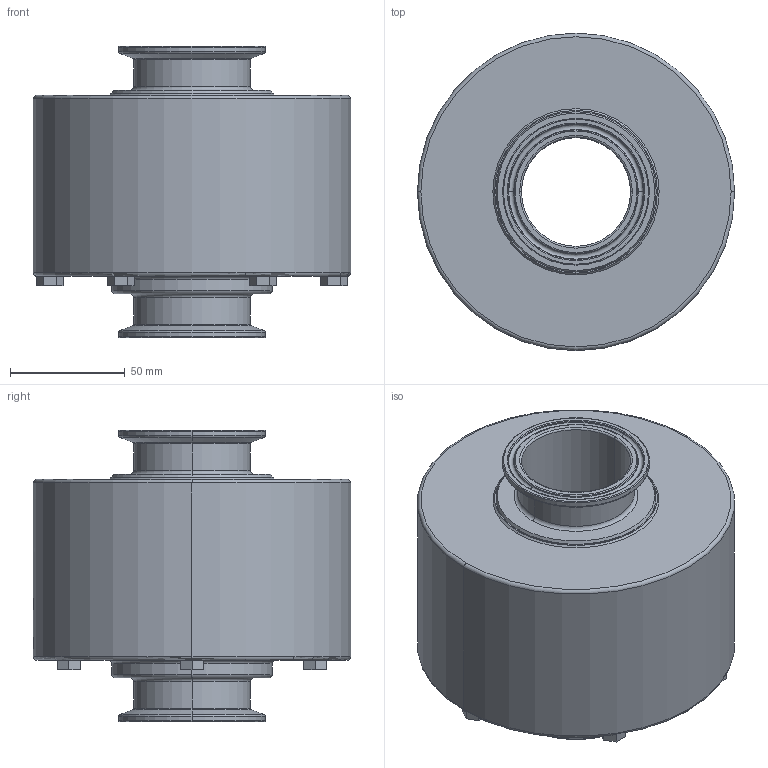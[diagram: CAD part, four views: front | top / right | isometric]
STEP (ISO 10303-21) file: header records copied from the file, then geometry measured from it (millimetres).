
FILE_DESCRIPTION (( 'STEP AP214' ), '1' );
FILE_NAME ('SCS(M)-609010.STEP', '2013-01-28T15:58:00', ( '' ), ( '' ), 'SwSTEP 2.0', 'SolidWorks 2011', '' );
FILE_SCHEMA (( 'AUTOMOTIVE_DESIGN' ));
Length unit declared in the file: inch
Products named in the file (1): SCS(M)-609010
Bounding box: 138.13 x 138.13 x 126.75 mm (x, y, z)
Volume: 1075268.9 mm3; surface area: 95576.7 mm2
Topology: 1 solids, 7 shells, 167 faces, 374 edges, 214 vertices
Faces by surface type: plane 63, torus 40, cone 32, cylinder 32
Entity records: 5344 total; most frequent: CARTESIAN_POINT 868, DIRECTION 860, ORIENTED_EDGE 716, EDGE_CURVE 358, AXIS2_PLACEMENT_3D 338, VERTEX_POINT 214, LINE 184, VECTOR 184
